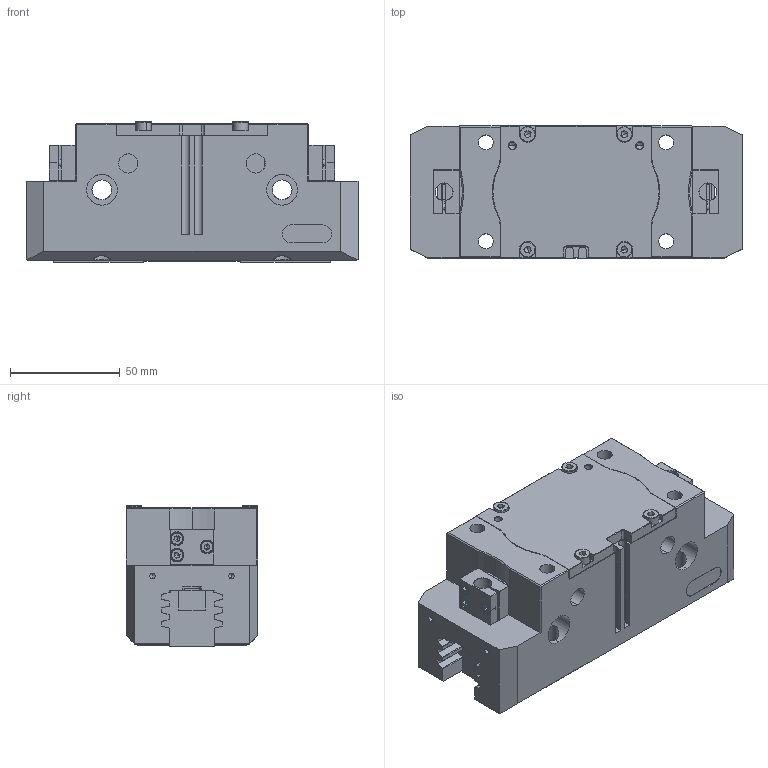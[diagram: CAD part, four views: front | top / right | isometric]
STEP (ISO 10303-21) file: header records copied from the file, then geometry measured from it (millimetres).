
FILE_DESCRIPTION (( 'STEP AP214' ), '1' );
FILE_NAME ('FPT-125B-1蚾饜极.STEP', '2024-11-12T08:50:24', ( '' ), ( '' ), 'SwSTEP 2.0', 'SolidWorks 2018', '' );
FILE_SCHEMA (( 'AUTOMOTIVE_DESIGN' ));
Length unit declared in the file: millimetre
Products named in the file (1): FPT-125B-1蚾饜极
Bounding box: 151 x 60 x 64 mm (x, y, z)
Volume: 435667.1 mm3; surface area: 72236.2 mm2
Topology: 1 solids, 35 shells, 1359 faces, 3429 edges, 2088 vertices
Faces by surface type: plane 758, cylinder 328, cone 229, torus 40, bspline 4
Entity records: 45654 total; most frequent: CARTESIAN_POINT 9177, DIRECTION 6996, ORIENTED_EDGE 6738, EDGE_CURVE 3369, AXIS2_PLACEMENT_3D 2385, VECTOR 2226, LINE 2226, VERTEX_POINT 2088
